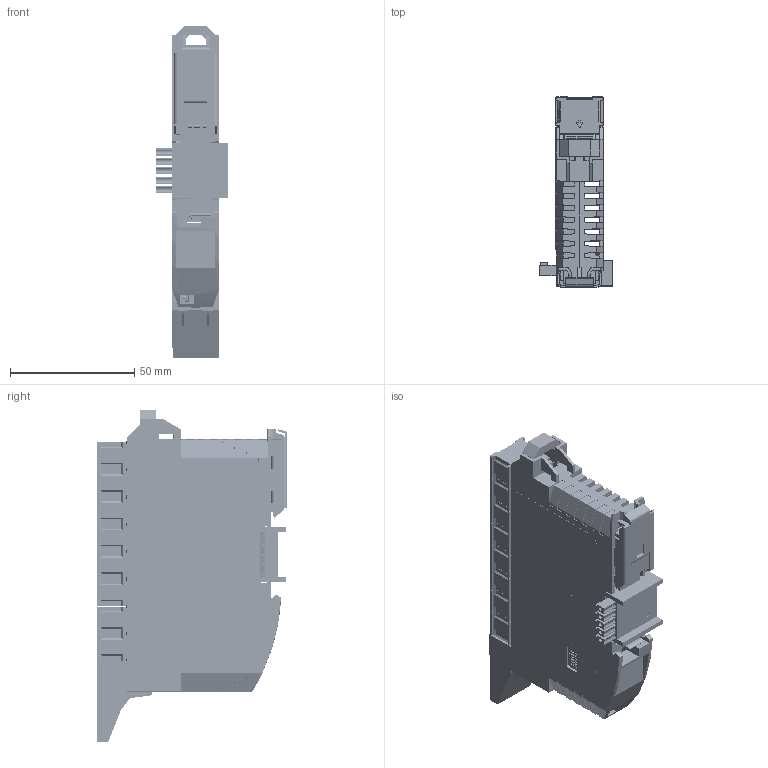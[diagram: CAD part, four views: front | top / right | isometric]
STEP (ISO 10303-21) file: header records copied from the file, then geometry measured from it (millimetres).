
FILE_DESCRIPTION(/* description */ (''),/* implementation_level */ '2;1');
FILE_NAME(/* name */ 'C:/Temp/STEP/FdxCompact_AI-8-C.step',/* time_stamp */ '2020-04-03T13:42:21+03:00',/* author */ (''),/* organization */ (''),/* preprocessor_version */ 'ST-DEVELOPER v18',/* originating_system */ 'Autodesk Translation Framework v8.12.0.6',/* authorisation */ '');
FILE_SCHEMA (('AUTOMOTIVE_DESIGN { 1 0 10303 214 3 1 1 }'));
Products named in the file (1): FdxCompact_AI-8-C
Bounding box: 29.2 x 76.5 x 133.55 mm (x, y, z)
Volume: 51437.7 mm3; surface area: 73987.7 mm2
Topology: 348 solids, 352 shells, 7837 faces, 20845 edges, 13860 vertices
Faces by surface type: plane 6011, cylinder 864, bspline 801, cone 96, sphere 33, torus 32
Full cylindrical faces by diameter (mm): 0.62 x1, 1 x19, 1.2 x32, 1.3 x32, 1.6 x10
Entity records: 372578 total; most frequent: CARTESIAN_POINT 173371, ORIENTED_EDGE 41474, DIRECTION 35062, EDGE_CURVE 20813, LINE 16710, VECTOR 16710, VERTEX_POINT 13860, AXIS2_PLACEMENT_3D 9176
